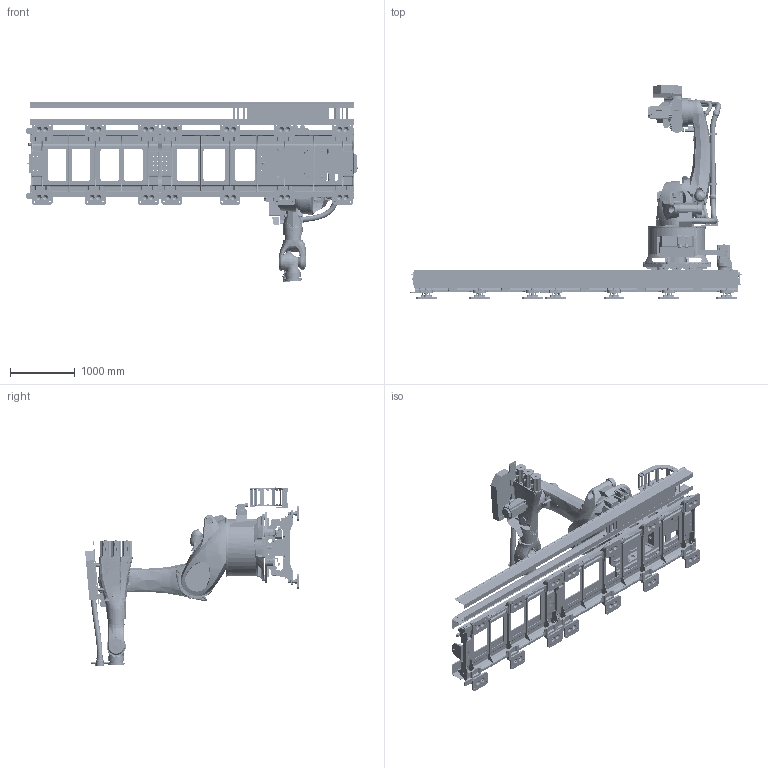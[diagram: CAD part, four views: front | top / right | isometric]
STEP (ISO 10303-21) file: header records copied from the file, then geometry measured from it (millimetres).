
FILE_DESCRIPTION(('CATIA V5 STEP Exchange','CAx-IF Rec.Pracs.--- Model Styling and Organization---1.5--- 2016-08-15','CAx-IF Rec.Pracs.---Supplemental Geometry---1.0---2011-11-01','CAx-IF Rec.Pracs.--- Composite Materials ---1.1---2010-07-15'),'2;1');
FILE_NAME('G:\3月\2025--3-12 SCT5000\3维数据\2025-3-12-STP\SCT5000-5M-KR360.stp','2025-03-12T07:04:36+00:00',('none'),('none'),'CATIA Version 5-6 Release 2020','CATIA V5 STEP AP214 v1','none');
FILE_SCHEMA(('AUTOMOTIVE_DESIGN { 1 0 10303 214 1 1 1 1 }'));
Products named in the file (114): SCT5000-5M-KR360; Product1; SG2210-A-A01; SG2210-A-A01.; SA2210-A-A11-01.1; Copy (1) of SA2210-A-A06.; SA2210-A-A09..14.17; M16_120.stp; ISO 7089 WASHER 16x30 STEEL GRADE A PLAIN NORMAL SERIES.2.stp; ISO 8738 WASHER 16 STEEL GRADE A PLAIN WASHER FOR CLEVIS PIN.1.stp.43.29; ISO 4762 SCREW M16x120 STEEL HEXAGON SOCKET HEAD CAP.stp.29; SA2210-A-A11-01-00; Copy (1) of SA2210-A-A07-04.1.stp.45.30; ASME B18.3.6M SCREW M6x20 STEEL HEX SOCKET SET OVAL POINT.37; SG2210-A-A03; SG2210-A-A03.; 2024-10-8-00; 2024-10-8-01; Product2; SG2210-A-A06; SG2210-A-A06-02; SG2210-A-A07.; Copy (1) of Copy (1) of M12.stp; Copy (1) of M12_45.stp; ISO 7089 WASHER 12x24 STEEL GRADE A PLAIN NORMAL SERIES.stp.23; ISO 8738 WASHER 12 STEEL GRADE A PLAIN WASHER FOR CLEVIS PIN.stp.69.67.34; ISO 4762 SCREW M12x45 STEEL HEXAGON SOCKET HEAD CAP.stp.67.90; Copy (1) of SA2210-A-A08-02.stp; Copy (1) of M12_45_3.stp; JIS B 1359 PIN 10x50 PARALLEL WITH INTERNAL THREAD CLASS 1.stp.82.35; Copy (1) of M12_45_2.stp; Copy (1) of M8_80.stp; ISO 4762 SCREW M8x80 STEEL HEXAGON SOCKET HEAD CAP.stp.122; SY20230207-ZZ-01-06-03-02.stp.6.18; Copy (1) of M12_45_1.stp; Copy (1) of 3900ib-SP  180S-MF1-   10-1K1-2SEC0154.stp; #3900ib-Abtrieb_SP_m150EC0154#_1.stp.43; #3900ib-Abtrieb_SP_m150_3EC0154#_1.stp.56.83; #3900ib-gb_fastener_washer_pwec 20_GB_FASTENER_WASHER_PWEC 204#_1.stp.42.68.38; #3900ib-Abtrieb_SP_m150_4EC0154#_1.stp.123.19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
Assembly tree (176 placements, depth 7):
  SCT5000-5M-KR360
    Product1
      SG2210-A-A01
        SG2210-A-A01.
        SA2210-A-A11-01.1  x6
          Copy (1) of SA2210-A-A06.
          SA2210-A-A09..14.17
          M16_120.stp
            ISO 7089 WASHER 16x30 STEEL GRADE A PLAIN NORMAL SERIES.2.stp
            ISO 8738 WASHER 16 STEEL GRADE A PLAIN WASHER FOR CLEVIS PIN.1.stp.43.29
            ISO 4762 SCREW M16x120 STEEL HEXAGON SOCKET HEAD CAP.stp.29
          SA2210-A-A11-01-00
            Copy (1) of SA2210-A-A07-04.1.stp.45.30
            ASME B18.3.6M SCREW M6x20 STEEL HEX SOCKET SET OVAL POINT.37  x4
      SG2210-A-A03
        SG2210-A-A03.
        SA2210-A-A11-01.1  x8
          Copy (1) of SA2210-A-A06.
          SA2210-A-A09..14.17
          M16_120.stp
            ISO 7089 WASHER 16x30 STEEL GRADE A PLAIN NORMAL SERIES.2.stp
            ISO 8738 WASHER 16 STEEL GRADE A PLAIN WASHER FOR CLEVIS PIN.1.stp.43.29
            ISO 4762 SCREW M16x120 STEEL HEXAGON SOCKET HEAD CAP.stp.29
          SA2210-A-A11-01-00
            Copy (1) of SA2210-A-A07-04.1.stp.45.30
            ASME B18.3.6M SCREW M6x20 STEEL HEX SOCKET SET OVAL POINT.37  x4
      2024-10-8-00
      2024-10-8-01
    Product2
      SG2210-A-A06
        SG2210-A-A06-02
          SG2210-A-A07.
          Copy (1) of Copy (1) of M12.stp
            Copy (1) of M12_45.stp  x12
              ISO 7089 WASHER 12x24 STEEL GRADE A PLAIN NORMAL SERIES.stp.23
              ISO 8738 WASHER 12 STEEL GRADE A PLAIN WASHER FOR CLEVIS PIN.stp.69.67.34
              ISO 4762 SCREW M12x45 STEEL HEXAGON SOCKET HEAD CAP.stp.67.90
          Copy (1) of SA2210-A-A08-02.stp
            Copy (1) of M12_45_3.stp
              ISO 4762 SCREW M12x45 STEEL HEXAGON SOCKET HEAD CAP.stp.67.90
              ISO 7089 WASHER 12x24 STEEL GRADE A PLAIN NORMAL SERIES.stp.23
              ISO 8738 WASHER 12 STEEL GRADE A PLAIN WASHER FOR CLEVIS PIN.stp.69.67.34
            JIS B 1359 PIN 10x50 PARALLEL WITH INTERNAL THREAD CLASS 1.stp.82.35  x2
            Copy (1) of M12_45_2.stp
              ISO 8738 WASHER 12 STEEL GRADE A PLAIN WASHER FOR CLEVIS PIN.stp.69.67.34
              ISO 4762 SCREW M12x45 STEEL HEXAGON SOCKET HEAD CAP.stp.67.90
              ISO 7089 WASHER 12x24 STEEL GRADE A PLAIN NORMAL SERIES.stp.23
            Copy (1) of M8_80.stp
              ISO 4762 SCREW M8x80 STEEL HEXAGON SOCKET HEAD CAP.stp.122  x2
            SY20230207-ZZ-01-06-03-02.stp.6.18
            Copy (1) of M12_45_1.stp
              ISO 8738 WASHER 12 STEEL GRADE A PLAIN WASHER FOR CLEVIS PIN.stp.69.67.34
              ISO 7089 WASHER 12x24 STEEL GRADE A PLAIN NORMAL SERIES.stp.23
              ISO 4762 SCREW M12x45 STEEL HEXAGON SOCKET HEAD CAP.stp.67.90
          Copy (1) of 3900ib-SP  180S-MF1-   10-1K1-2SEC0154.stp
            #3900ib-Abtrieb_SP_m150EC0154#_1.stp.43
            #3900ib-Abtrieb_SP_m150_3EC0154#_1.stp.56.83
            #3900ib-gb_fastener_washer_pwec 20_GB_FASTENER_WASHER_PWEC 204#_1.stp.42.68.38
            #3900ib-Abtrieb_SP_m150_4EC0154#_1.stp.123.19
            #3900ib-gb_fastener_bolt_sshb a m16x65-simplified_GB_FASTENER_BOLT_SSHB A M16X65-Simplified4#_1.stp.55.124.15
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Bounding box: 5125 x 3299.76 x 2776.95 mm (x, y, z)
Volume: 1325639611.4 mm3; surface area: 65393716.2 mm2
Topology: 473 solids, 594 shells, 26016 faces, 74355 edges, 49859 vertices
Faces by surface type: plane 11577, cylinder 7567, cone 2681, bspline 2074, torus 1516, sphere 415, extrusion 179, revolution 7
Entity records: 690168 total; most frequent: CARTESIAN_POINT 297345, ORIENTED_EDGE 95042, DIRECTION 50119, EDGE_CURVE 48056, VERTEX_POINT 32871, VECTOR 21301, LINE 21122, AXIS2_PLACEMENT_3D 20203
